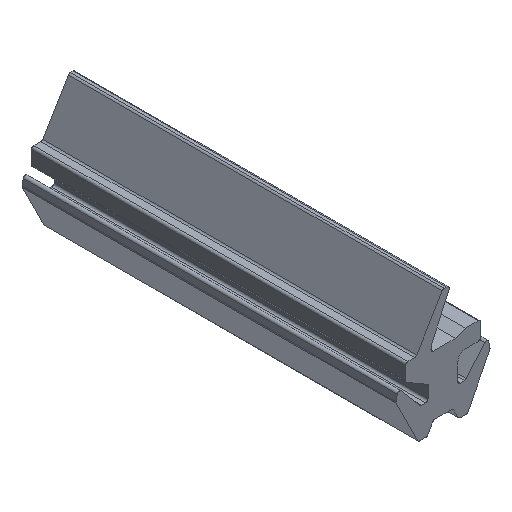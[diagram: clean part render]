
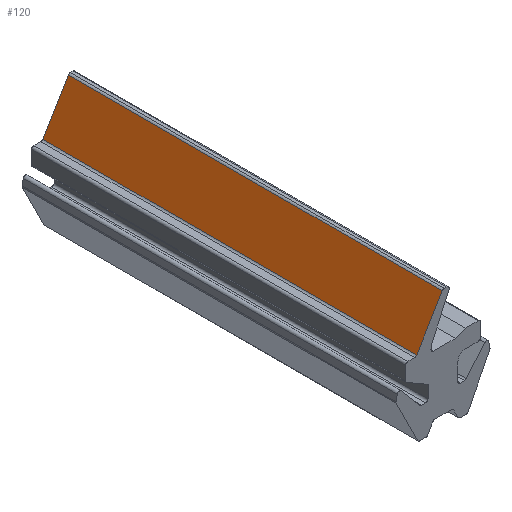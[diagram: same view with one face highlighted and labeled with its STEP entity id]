
A CAD part, isometric view. The second image highlights one B-rep face of the part: STEP entity #120.
In plain terms, the highlighted planar face has unit normal (-0.858, 0, 0.514).
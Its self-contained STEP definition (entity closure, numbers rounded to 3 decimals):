
#120=ADVANCED_FACE('',(#263),#264,.F.);
#263=FACE_OUTER_BOUND('',#426,.T.);
#264=PLANE('',#427);
#426=EDGE_LOOP('',(#693,#694,#695,#696));
#427=AXIS2_PLACEMENT_3D('',#697,#698,#699);
#693=ORIENTED_EDGE('',*,*,#1128,.F.);
#694=ORIENTED_EDGE('',*,*,#1033,.F.);
#695=ORIENTED_EDGE('',*,*,#1129,.T.);
#696=ORIENTED_EDGE('',*,*,#1130,.T.);
#697=CARTESIAN_POINT('',(-3.513,0.,0.146));
#698=DIRECTION('',(0.857,0.0,-0.514));
#699=DIRECTION('',(-0.514,0.0,-0.857));
#1033=EDGE_CURVE('',#1241,#1237,#1243,.T.);
#1128=EDGE_CURVE('',#1237,#1404,#1405,.T.);
#1129=EDGE_CURVE('',#1241,#1406,#1407,.T.);
#1130=EDGE_CURVE('',#1406,#1404,#1408,.T.);
#1237=VERTEX_POINT('',#1543);
#1241=VERTEX_POINT('',#1548);
#1243=LINE('',#1550,#1551);
#1404=VERTEX_POINT('',#1767);
#1405=LINE('',#1768,#1769);
#1406=VERTEX_POINT('',#1770);
#1407=LINE('',#1771,#1772);
#1408=LINE('',#1773,#1774);
#1543=CARTESIAN_POINT('',(-3.513,50.0,0.146));
#1548=CARTESIAN_POINT('',(-3.513,0.,0.146));
#1550=CARTESIAN_POINT('',(-3.513,0.,0.146));
#1551=VECTOR('',#1945,1.0);
#1767=CARTESIAN_POINT('',(-0.087,50.0,5.854));
#1768=CARTESIAN_POINT('',(-3.513,50.0,0.146));
#1769=VECTOR('',#2055,1.0);
#1770=CARTESIAN_POINT('',(-0.087,0.,5.854));
#1771=CARTESIAN_POINT('',(-3.513,0.,0.146));
#1772=VECTOR('',#2056,1.0);
#1773=CARTESIAN_POINT('',(-0.087,0.,5.854));
#1774=VECTOR('',#2057,1.0);
#1945=DIRECTION('',(0.0,1.0,0.0));
#2055=DIRECTION('',(0.514,0.0,0.857));
#2056=DIRECTION('',(0.514,0.0,0.857));
#2057=DIRECTION('',(0.0,1.0,0.0));
